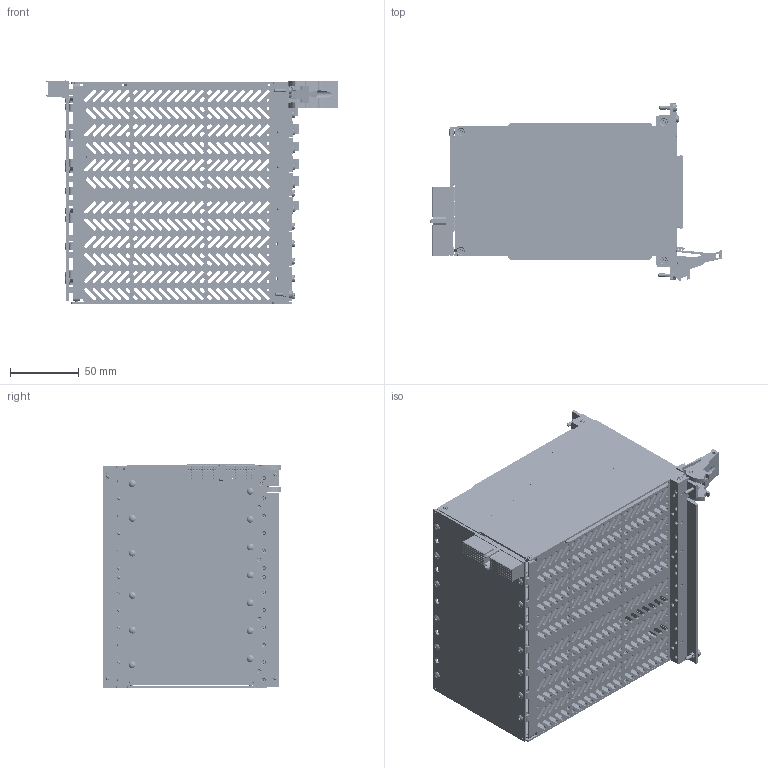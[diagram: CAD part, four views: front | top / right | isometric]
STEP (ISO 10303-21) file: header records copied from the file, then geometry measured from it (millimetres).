
FILE_DESCRIPTION (( 'STEP AP214' ), '1' );
FILE_NAME ('40-560A-121-322x8 BASIC ASSY-S20.STEP', '2018-07-04T12:59:06', ( 'admin' ), ( 'Hewlett-Packard Company' ), 'SwSTEP 2.0', 'SolidWorks 2017', '' );
FILE_SCHEMA (( 'AUTOMOTIVE_DESIGN' ));
Length unit declared in the file: millimetre
Products named in the file (361): C-IC-338 ADUM1400 Analog IC; Z-FX-2120 BRIC Top & Bottom Weld Spots; P-FX-017 M2,5 Collar Posi-Slot Screw; C-FX-042 Screw M2.5x6 CSK Pozi; C-FX-272 Mtg Block (68W SCSI)_9.7 Size; C-PC-302 Bric 46x8 Daughter PCB; A-FX-262-8 BRIC8 LH Side Panel Sandblasted and insulated; A-FX-276 BRIC8 Top Assy; C-FP-406 Bric 1 Slot Blanking Panel; C-CN-549 (HONDA PCS-E68LMD-conector); C-PC-352 46x8 BRIC SUB CARD M-TASK; A-FX-275 BRIC8 Bottom Assy; C-CN-546 PCI Bric 50W Straight SMC Connector; C-FX-101 M2.5x6mm Pan Head Cross Recess Screw_ISO; C-FX-278 BRIC8 8 Slot Sub Chassis Bottom Panel; A-PC-302 PXI Bric 46x8 Daughter PCB; L-FX-722 BRIC LH Side Polyester Insulator Label; A-FX-277 8 Slot Chassis FP + label assy Top; 44-560-021-46X8 BRIC 46X8 RELAY SUBCARDNO.2_1 Card; C-FX-437 Screw M2.5x5 Soc Set Cone-PT; A-PC-302-# PXI BRIC 46x8 DAUGHTER; A-FP-394-AA FP + Label Assy; C-FX-272 Mtg Block (68W SCSI); A-FX-278 8 Slot Chassis FP + label assy Bottom; C-CN-547 PCI Bric 50 Way R-A Connector; C-FP-405 Brick 8 Centre Blank; L-FX-264-LOGO BRIC8 Sand Blasting_BRIC 8; L-FX-277 8 Slot Chassis FP label assy Top; L-FP-394-AA Label Assy; L-FP-394-# FP Label; C-FX-147 M3x8mm Soc Button Screw; L-FX-278 8 Slot Chassis FP label assy Bottom; L-FX-165 PXI Handle Label; 44-940A-008 BRIC8 1A Sub Chassis Assy; C-FX-262 BRIC  LH Side Panel Welded_Location tabs removed; L-FX-277-# 8 Slot Chassis FP label Top; C-CN-550 PCI 110 Way Straight Type A; C-FP-394 Bric-1 Slot FP 68W SCSI; C-UX-275-B BRIC8 Laser cut profile; C-FX-165 Handle Pin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
Assembly tree (264 placements, depth 7):
  C-IC-338 ADUM1400 Analog IC
  Z-FX-2120 BRIC Top & Bottom Weld Spots
  P-FX-017 M2,5 Collar Posi-Slot Screw
  Z-FX-2120 BRIC Top & Bottom Weld Spots
  C-FX-042 Screw M2.5x6 CSK Pozi
Bounding box: 212.85 x 129.01 x 162.43 mm (x, y, z)
Volume: 419918.3 mm3; surface area: 721607.2 mm2
Topology: 305 solids, 1049 shells, 39051 faces, 108811 edges, 72369 vertices
Faces by surface type: plane 22033, cylinder 11864, cone 2165, torus 1506, bspline 1393, sphere 90
Entity records: 513678 total; most frequent: CARTESIAN_POINT 95546, DIRECTION 77970, ORIENTED_EDGE 76747, EDGE_CURVE 38684, AXIS2_PLACEMENT_3D 26614, VERTEX_POINT 25579, VECTOR 24742, LINE 24742
